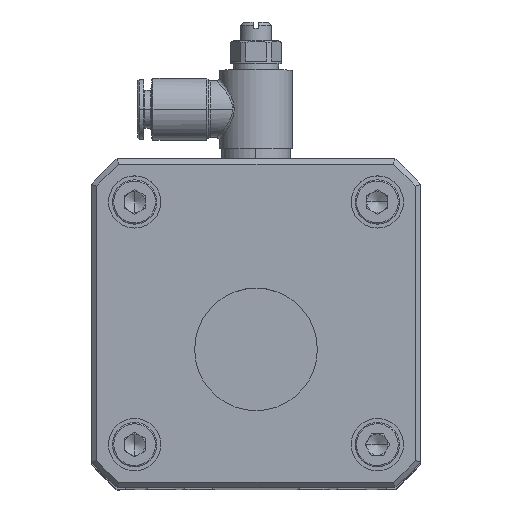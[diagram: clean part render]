
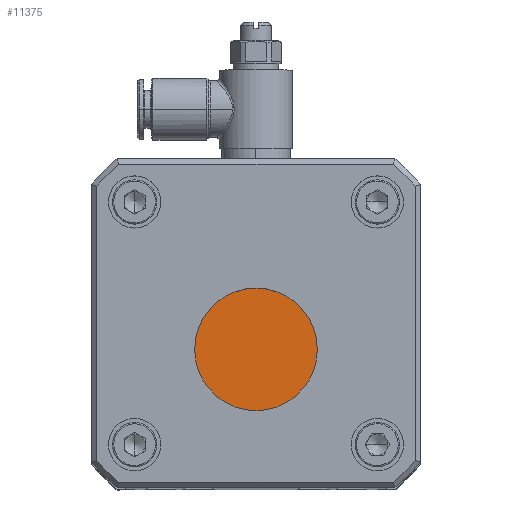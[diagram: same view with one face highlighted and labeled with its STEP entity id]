
A CAD part, top view. The second image highlights one B-rep face of the part: STEP entity #11375.
In plain terms, the highlighted planar face has unit normal (0, 0, 1).
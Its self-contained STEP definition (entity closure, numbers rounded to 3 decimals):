
#1111 = VERTEX_POINT ( 'NONE', #19047 ) ;
#4856 = EDGE_LOOP ( 'NONE', ( #11498, #20791 ) ) ;
#8560 = CARTESIAN_POINT ( 'NONE',  ( 0., -5., 141. ) ) ;
#9038 = PLANE ( 'NONE',  #17721 ) ;
#10734 = EDGE_CURVE ( 'NONE', #23745, #1111, #20738, .T. ) ;
#11375 = ADVANCED_FACE ( 'NONE', ( #13252 ), #9038, .T. ) ;
#11498 = ORIENTED_EDGE ( 'NONE', *, *, #10734, .T. ) ;
#12114 = DIRECTION ( 'NONE',  ( 1., 0., 0. ) ) ;
#13252 = FACE_OUTER_BOUND ( 'NONE', #4856, .T. ) ;
#17697 = DIRECTION ( 'NONE',  ( 0., 0., 1. ) ) ;
#17721 = AXIS2_PLACEMENT_3D ( 'NONE', #27095, #20583, #12114 ) ;
#19047 = CARTESIAN_POINT ( 'NONE',  ( -11.75, -5., 141. ) ) ;
#19607 = AXIS2_PLACEMENT_3D ( 'NONE', #34252, #25099, #37278 ) ;
#20583 = DIRECTION ( 'NONE',  ( 0., 0., 1. ) ) ;
#20738 = CIRCLE ( 'NONE', #24273, 11.75 ) ;
#20791 = ORIENTED_EDGE ( 'NONE', *, *, #29167, .T. ) ;
#23745 = VERTEX_POINT ( 'NONE', #36332 ) ;
#24273 = AXIS2_PLACEMENT_3D ( 'NONE', #8560, #17697, #32861 ) ;
#25099 = DIRECTION ( 'NONE',  ( 0., 0., 1. ) ) ;
#27095 = CARTESIAN_POINT ( 'NONE',  ( -30.4, 13.8, 141. ) ) ;
#29167 = EDGE_CURVE ( 'NONE', #1111, #23745, #38738, .T. ) ;
#32861 = DIRECTION ( 'NONE',  ( 1., 0., 0. ) ) ;
#34252 = CARTESIAN_POINT ( 'NONE',  ( 0., -5., 141. ) ) ;
#36332 = CARTESIAN_POINT ( 'NONE',  ( 11.75, -5., 141. ) ) ;
#37278 = DIRECTION ( 'NONE',  ( 1., 0., 0. ) ) ;
#38738 = CIRCLE ( 'NONE', #19607, 11.75 ) ;
